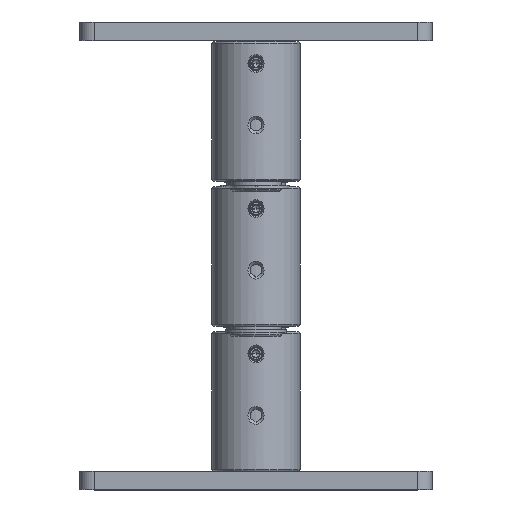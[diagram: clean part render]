
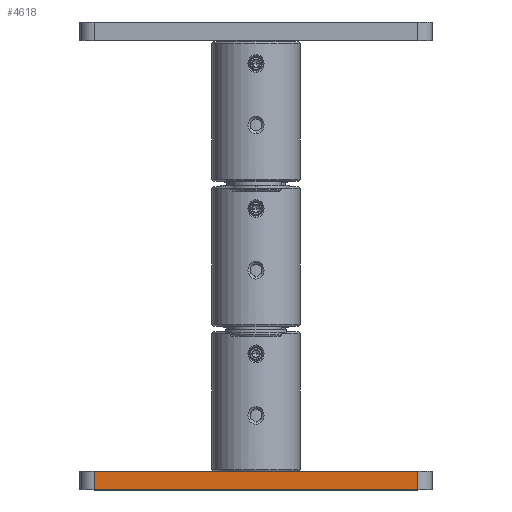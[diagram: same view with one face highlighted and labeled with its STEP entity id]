
A CAD part, top view. The second image highlights one B-rep face of the part: STEP entity #4618.
In plain terms, the highlighted planar face has unit normal (0, 0, 1) as drawn and (1, 0, 0) by its records, which use the part's own axes.
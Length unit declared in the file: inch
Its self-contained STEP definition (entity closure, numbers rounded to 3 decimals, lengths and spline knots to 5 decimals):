
#85 = PLANE ( 'NONE',  #2790 ) ;
#216 = EDGE_LOOP ( 'NONE', ( #6005, #6582, #2828, #1915 ) ) ;
#480 = CARTESIAN_POINT ( 'NONE',  ( 6., 0.3125, 0.25 ) ) ;
#823 = FACE_OUTER_BOUND ( 'NONE', #216, .T. ) ;
#1359 = VECTOR ( 'NONE', #5167, 39.37008 ) ;
#1504 = VERTEX_POINT ( 'NONE', #5658 ) ;
#1915 = ORIENTED_EDGE ( 'NONE', *, *, #6007, .T. ) ;
#2186 = LINE ( 'NONE', #6677, #1359 ) ;
#2790 = AXIS2_PLACEMENT_3D ( 'NONE', #480, #9277, #5669 ) ;
#2828 = ORIENTED_EDGE ( 'NONE', *, *, #3759, .F. ) ;
#3071 = CARTESIAN_POINT ( 'NONE',  ( 6., 0.3125, 0.25 ) ) ;
#3153 = EDGE_CURVE ( 'NONE', #7662, #7178, #2186, .T. ) ;
#3518 = LINE ( 'NONE', #4110, #7172 ) ;
#3576 = VECTOR ( 'NONE', #3925, 39.37008 ) ;
#3759 = EDGE_CURVE ( 'NONE', #1504, #5605, #9682, .T. ) ;
#3843 = EDGE_CURVE ( 'NONE', #5605, #7178, #6349, .T. ) ;
#3925 = DIRECTION ( 'NONE',  ( 0., -1., 0. ) ) ;
#4110 = CARTESIAN_POINT ( 'NONE',  ( 6., 0.3125, 5.75 ) ) ;
#4618 = ADVANCED_FACE ( 'NONE', ( #823 ), #85, .F. ) ;
#5167 = DIRECTION ( 'NONE',  ( 0., 0., -1. ) ) ;
#5605 = VERTEX_POINT ( 'NONE', #7158 ) ;
#5658 = CARTESIAN_POINT ( 'NONE',  ( 6., 0.3125, 5.75 ) ) ;
#5669 = DIRECTION ( 'NONE',  ( 0., 0., 1. ) ) ;
#6005 = ORIENTED_EDGE ( 'NONE', *, *, #3153, .T. ) ;
#6007 = EDGE_CURVE ( 'NONE', #1504, #7662, #3518, .T. ) ;
#6349 = LINE ( 'NONE', #6844, #3576 ) ;
#6582 = ORIENTED_EDGE ( 'NONE', *, *, #3843, .F. ) ;
#6677 = CARTESIAN_POINT ( 'NONE',  ( 6., 0., 0.25 ) ) ;
#6844 = CARTESIAN_POINT ( 'NONE',  ( 6., 0.3125, 0.25 ) ) ;
#7158 = CARTESIAN_POINT ( 'NONE',  ( 6., 0.3125, 0.25 ) ) ;
#7172 = VECTOR ( 'NONE', #7946, 39.37008 ) ;
#7178 = VERTEX_POINT ( 'NONE', #8868 ) ;
#7662 = VERTEX_POINT ( 'NONE', #8690 ) ;
#7946 = DIRECTION ( 'NONE',  ( 0., -1., 0. ) ) ;
#8286 = VECTOR ( 'NONE', #8350, 39.37008 ) ;
#8350 = DIRECTION ( 'NONE',  ( 0., 0., -1. ) ) ;
#8690 = CARTESIAN_POINT ( 'NONE',  ( 6., 0., 5.75 ) ) ;
#8868 = CARTESIAN_POINT ( 'NONE',  ( 6., 0., 0.25 ) ) ;
#9277 = DIRECTION ( 'NONE',  ( -1., 0., 0. ) ) ;
#9682 = LINE ( 'NONE', #3071, #8286 ) ;
